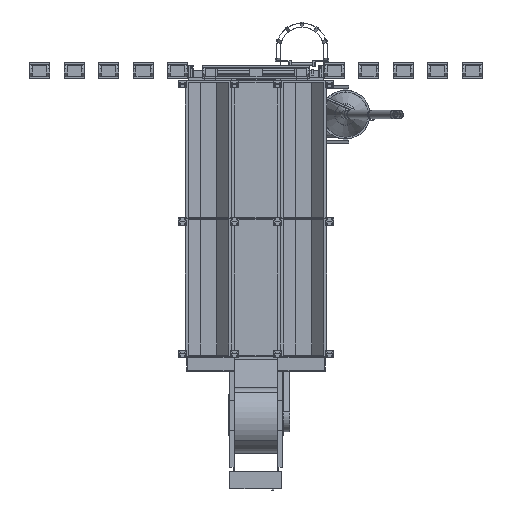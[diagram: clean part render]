
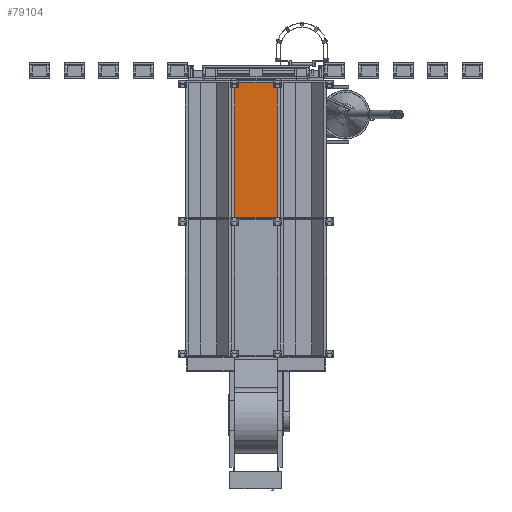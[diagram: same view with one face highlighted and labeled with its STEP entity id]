
A CAD part, front view. The second image highlights one B-rep face of the part: STEP entity #79104.
In plain terms, the highlighted planar face has unit normal (0, -1, 0) as drawn and (0, 0, -1) by its records, which use the part's own axes.
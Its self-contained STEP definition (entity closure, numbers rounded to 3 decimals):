
#4654=FACE_OUTER_BOUND('',#8718,.T.);
#8718=EDGE_LOOP('',(#52889,#52890,#52891,#52892));
#13609=LINE('',#111646,#23463);
#13612=LINE('',#111652,#23466);
#13678=LINE('',#111790,#23532);
#13679=LINE('',#111791,#23533);
#23463=VECTOR('',#90030,0.394);
#23466=VECTOR('',#90035,0.394);
#23532=VECTOR('',#90125,0.394);
#23533=VECTOR('',#90126,0.394);
#33246=VERTEX_POINT('',#111639);
#33249=VERTEX_POINT('',#111644);
#33250=VERTEX_POINT('',#111648);
#33311=VERTEX_POINT('',#111789);
#40945=EDGE_CURVE('',#33249,#33246,#13609,.T.);
#40948=EDGE_CURVE('',#33246,#33250,#13612,.T.);
#41014=EDGE_CURVE('',#33311,#33250,#13678,.T.);
#41015=EDGE_CURVE('',#33311,#33249,#13679,.T.);
#52889=ORIENTED_EDGE('',*,*,#41014,.T.);
#52890=ORIENTED_EDGE('',*,*,#40948,.F.);
#52891=ORIENTED_EDGE('',*,*,#40945,.F.);
#52892=ORIENTED_EDGE('',*,*,#41015,.F.);
#75816=PLANE('',#83898);
#79104=ADVANCED_FACE('',(#4654),#75816,.F.);
#83898=AXIS2_PLACEMENT_3D('',#111788,#90123,#90124);
#90030=DIRECTION('',(0.,-1.,0.));
#90035=DIRECTION('',(1.,0.,0.));
#90123=DIRECTION('center_axis',(0.,0.,1.));
#90124=DIRECTION('ref_axis',(1.,0.,0.));
#90125=DIRECTION('',(0.,-1.,0.));
#90126=DIRECTION('',(-1.,0.,0.));
#111639=CARTESIAN_POINT('',(-288.,-47.25,0.));
#111644=CARTESIAN_POINT('',(-288.,47.25,0.));
#111646=CARTESIAN_POINT('',(-288.,47.25,0.));
#111648=CARTESIAN_POINT('',(-192.004,-47.25,0.));
#111652=CARTESIAN_POINT('',(-288.,-47.25,0.));
#111788=CARTESIAN_POINT('Origin',(-144.,0.,0.));
#111789=CARTESIAN_POINT('',(-192.004,47.25,0.));
#111790=CARTESIAN_POINT('',(-192.004,2.638,0.));
#111791=CARTESIAN_POINT('',(0.,47.25,0.));
